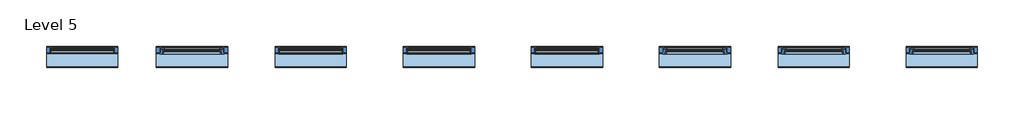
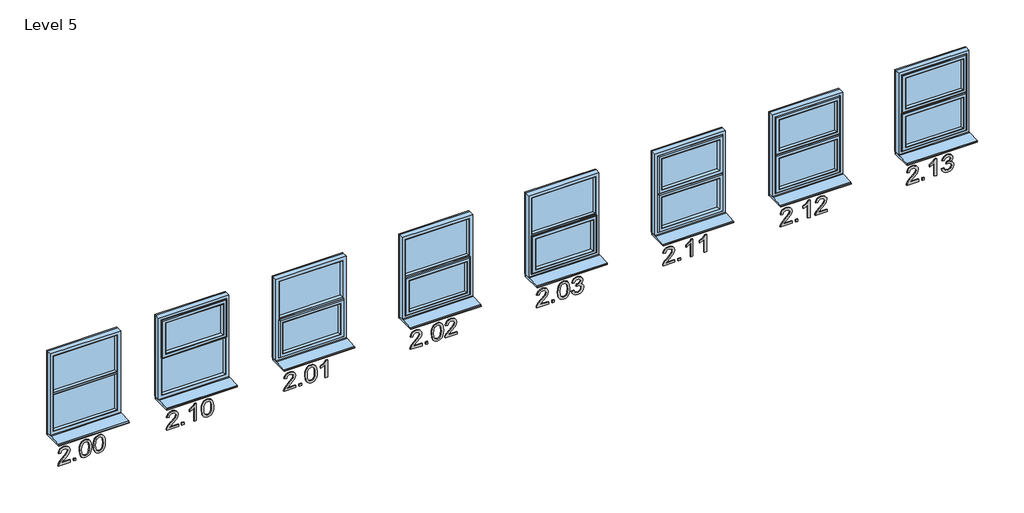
# One storey: 8 proxies, 8 windows.
"""IFC4 building model written with IfcOpenShell, lengths in millimetres."""

from ifc_helpers import new_model, si_unit, frame, origin, place, context, project, spatial, polyline, outline, extrude, transform, mapped, element, save
from components import standard_b5395198, standard_c10d99b5, standard_74cfcb48, standard_0e25eb84

model = new_model("IFC4")

# Units and contexts
model_context = context("Model", 3, world=origin())
ifc_project = project(units=[si_unit("LENGTHUNIT", "METRE", prefix="MILLI")], contexts=[model_context])

# Site, building, storey
site = spatial("IfcSite", under=ifc_project)
building = spatial("IfcBuilding", under=site)
storey = spatial("IfcBuildingStorey", under=building, Name="Level 5", Elevation=12000.0)

# Proxies
placement = place(None, origin())
element("IfcBuildingElementProxy", 1, Name="200mm Arial", ObjectType="200mm Arial", at=placement, inside=storey, context=model_context, shape_type="SweptSolid", body=[
    extrude(outline(polyline([(12310.934856, -163073.2452174), (12310.934856, -163171.8866431), (12323.712624, -163160.5558776), (12347.8702083, -163131.6648783), (12382.2794376, -163095.6860191), (12406.9030058, -163080.848112), (12430.7172337, -163076.3844771), (12452.6184751, -163080.5231496), (12470.6446929, -163092.9391669), (12482.7112223, -163112.4553067), (12486.7333988, -163137.8943467), (12483.1158925, -163163.1494457), (12472.2633736, -163182.7023737), (12454.5191987, -163195.8664178), (12430.2267243, -163201.9548648), (12427.0874646, -163176.8407873), (12441.5207016, -163174.1245919), (12452.4467968, -163166.2703113), (12459.3261901, -163154.0995486), (12461.6193212, -163138.433907), (12459.2710078, -163123.5162921), (12452.2260676, -163111.7256741), (12441.7720876, -163104.0553345), (12429.1966547, -163101.4985546), (12415.168088, -163104.2086187), (12400.7471138, -163112.3388108), (12358.9066682, -163155.6998353), (12329.7949396, -163187.1414831), (12303.1357577, -163202.3963232), (12285.8207785, -163205.0941245), (12285.8207785, -163073.2452174), (12310.934856, -163073.2452174)])), frame((0.0, 24202.6264647, 0.0), z_axis=(0.0, 1.0, 0.0), x_axis=(0.0, 0.0, 1.0)), (0.0, 0.0, 1.0), 10.0),
    extrude(outline(polyline([(-163010.4600236, 24202.6264647), (-163035.5741011, 24202.6264647), (-163035.5741011, 24212.6264647), (-163010.4600236, 24212.6264647), (-163010.4600236, 24202.6264647)])), frame((0.0, 0.0, 12285.8207785), z_axis=(0.0, 0.0, 1.0), x_axis=(1.0, 0.0, 0.0)), (0.0, 0.0, 1.0), 25.1140775),
    extrude(outline(polyline([(12384.6584079, -162969.6496476), (12335.7914162, -162964.6464524), (12316.9405296, -162958.3924585), (12301.8113825, -162949.636867), (12287.4639847, -162929.8202902), (12282.6815188, -162903.725194), (12285.4345024, -162883.4242393), (12293.6934532, -162866.96152), (12307.5503417, -162854.2266716), (12327.0971383, -162845.1093295), (12352.6833311, -162839.6278877), (12384.6584079, -162837.8007405), (12431.8699306, -162842.3624772), (12461.5947958, -162854.1347011), (12472.3553441, -162862.8044534), (12480.2586757, -162874.3927363), (12485.114718, -162888.2496248), (12486.7333988, -162903.725194), (12483.9988093, -162923.9157842), (12475.7950408, -162940.3417153), (12461.9933346, -162953.0949578), (12442.464932, -162962.2674822), (12416.8174256, -162967.8041062), (12384.6584079, -162969.6496476)]), holes=[polyline([(12384.7074588, -162944.53557), (12423.7029503, -162941.4944122), (12448.1793657, -162932.3709387), (12458.2593324, -162919.7403236), (12461.6193212, -162904.0194996), (12457.8056112, -162887.4157589), (12446.3644812, -162874.2946344), (12423.3228055, -162865.7597721), (12384.7074588, -162862.914818), (12345.2643775, -162865.857874), (12322.3882488, -162874.6870419), (12311.4437594, -162887.8326918), (12307.7955963, -162903.725194), (12311.4314967, -162919.6176962), (12322.3391979, -162932.7633462), (12345.2030639, -162941.5925141), (12384.7074588, -162944.53557)])]), frame((0.0, 24202.6264647, 0.0), z_axis=(0.0, 1.0, 0.0), x_axis=(0.0, 0.0, 1.0)), (0.0, 0.0, 1.0), 10.0),
    extrude(outline(polyline([(12384.6584079, -162815.8259227), (12335.7914162, -162810.8227275), (12316.9405296, -162804.5687336), (12301.8113825, -162795.8131421), (12287.4639847, -162775.9965653), (12282.6815188, -162749.9014691), (12285.4345024, -162729.6005144), (12293.6934532, -162713.1377951), (12307.5503417, -162700.4029467), (12327.0971383, -162691.2856046), (12352.6833311, -162685.8041628), (12384.6584079, -162683.9770156), (12431.8699306, -162688.5387523), (12461.5947958, -162700.3109762), (12472.3553441, -162708.9807285), (12480.2586757, -162720.5690114), (12485.114718, -162734.4258999), (12486.7333988, -162749.9014691), (12483.9988093, -162770.0920593), (12475.7950408, -162786.5179904), (12461.9933346, -162799.2712329), (12442.464932, -162808.4437573), (12416.8174256, -162813.9803813), (12384.6584079, -162815.8259227)]), holes=[polyline([(12384.7074588, -162790.7118451), (12423.7029503, -162787.6706873), (12448.1793657, -162778.5472138), (12458.2593324, -162765.9165986), (12461.6193212, -162750.1957747), (12457.8056112, -162733.592034), (12446.3644812, -162720.4709095), (12423.3228055, -162711.9360472), (12384.7074588, -162709.0910931), (12345.2643775, -162712.0341491), (12322.3882488, -162720.863317), (12311.4437594, -162734.0089669), (12307.7955963, -162749.9014691), (12311.4314967, -162765.7939713), (12322.3391979, -162778.9396213), (12345.2030639, -162787.7687892), (12384.7074588, -162790.7118451)])]), frame((0.0, 24202.6264647, 0.0), z_axis=(0.0, 1.0, 0.0), x_axis=(0.0, 0.0, 1.0)), (0.0, 0.0, 1.0), 10.0),
])
element("IfcBuildingElementProxy", 2, Name="200mm Arial", ObjectType="200mm Arial", at=placement, inside=storey, context=model_context, shape_type="SweptSolid", body=[
    extrude(outline(polyline([(12310.934856, -161873.2452174), (12310.934856, -161971.8866431), (12323.712624, -161960.5558776), (12347.8702083, -161931.6648783), (12382.2794376, -161895.6860191), (12406.9030058, -161880.848112), (12430.7172337, -161876.3844771), (12452.6184751, -161880.5231496), (12470.6446929, -161892.9391669), (12482.7112223, -161912.4553067), (12486.7333988, -161937.8943467), (12483.1158925, -161963.1494457), (12472.2633736, -161982.7023737), (12454.5191987, -161995.8664178), (12430.2267243, -162001.9548648), (12427.0874646, -161976.8407873), (12441.5207016, -161974.1245919), (12452.4467968, -161966.2703113), (12459.3261901, -161954.0995486), (12461.6193212, -161938.433907), (12459.2710078, -161923.5162921), (12452.2260676, -161911.7256741), (12441.7720876, -161904.0553345), (12429.1966547, -161901.4985546), (12415.168088, -161904.2086187), (12400.7471138, -161912.3388108), (12358.9066682, -161955.6998353), (12329.7949396, -161987.1414831), (12303.1357577, -162002.3963232), (12285.8207785, -162005.0941245), (12285.8207785, -161873.2452174), (12310.934856, -161873.2452174)])), frame((0.0, 24202.6264647, 0.0), z_axis=(0.0, 1.0, 0.0), x_axis=(0.0, 0.0, 1.0)), (0.0, 0.0, 1.0), 10.0),
    extrude(outline(polyline([(-161810.4600236, 24202.6264647), (-161835.5741011, 24202.6264647), (-161835.5741011, 24212.6264647), (-161810.4600236, 24212.6264647), (-161810.4600236, 24202.6264647)])), frame((0.0, 0.0, 12285.8207785), z_axis=(0.0, 0.0, 1.0), x_axis=(1.0, 0.0, 0.0)), (0.0, 0.0, 1.0), 25.1140775),
    extrude(outline(polyline([(12285.8207785, -161675.4718568), (12486.7333988, -161675.4718568), (12486.7333988, -161691.6586646), (12473.5754861, -161700.530752), (12460.0006405, -161714.0013644), (12436.5052437, -161750.8140894), (12412.7645923, -161750.8140894), (12425.4442584, -161724.3756367), (12442.3913556, -161700.5859343), (12285.8207785, -161700.5859343), (12285.8207785, -161675.4718568)])), frame((0.0, 24202.6264647, 0.0), z_axis=(0.0, 1.0, 0.0), x_axis=(0.0, 0.0, 1.0)), (0.0, 0.0, 1.0), 10.0),
    extrude(outline(polyline([(12384.6584079, -161615.8259227), (12335.7914162, -161610.8227275), (12316.9405296, -161604.5687336), (12301.8113825, -161595.8131421), (12287.4639847, -161575.9965653), (12282.6815188, -161549.9014691), (12285.4345024, -161529.6005144), (12293.6934532, -161513.1377951), (12307.5503417, -161500.4029467), (12327.0971383, -161491.2856046), (12352.6833311, -161485.8041628), (12384.6584079, -161483.9770156), (12431.8699306, -161488.5387523), (12461.5947958, -161500.3109762), (12472.3553441, -161508.9807285), (12480.2586757, -161520.5690114), (12485.114718, -161534.4258999), (12486.7333988, -161549.9014691), (12483.9988093, -161570.0920593), (12475.7950408, -161586.5179904), (12461.9933346, -161599.2712329), (12442.464932, -161608.4437573), (12416.8174256, -161613.9803813), (12384.6584079, -161615.8259227)]), holes=[polyline([(12384.7074588, -161590.7118451), (12423.7029503, -161587.6706873), (12448.1793657, -161578.5472138), (12458.2593324, -161565.9165986), (12461.6193212, -161550.1957747), (12457.8056112, -161533.592034), (12446.3644812, -161520.4709095), (12423.3228055, -161511.9360472), (12384.7074588, -161509.0910931), (12345.2643775, -161512.0341491), (12322.3882488, -161520.863317), (12311.4437594, -161534.0089669), (12307.7955963, -161549.9014691), (12311.4314967, -161565.7939713), (12322.3391979, -161578.9396213), (12345.2030639, -161587.7687892), (12384.7074588, -161590.7118451)])]), frame((0.0, 24202.6264647, 0.0), z_axis=(0.0, 1.0, 0.0), x_axis=(0.0, 0.0, 1.0)), (0.0, 0.0, 1.0), 10.0),
])
element("IfcBuildingElementProxy", 3, Name="200mm Arial", ObjectType="200mm Arial", at=placement, inside=storey, context=model_context, shape_type="SweptSolid", body=[
    extrude(outline(polyline([(12310.934856, -160573.2452174), (12310.934856, -160671.8866431), (12323.712624, -160660.5558776), (12347.8702083, -160631.6648783), (12382.2794376, -160595.6860191), (12406.9030058, -160580.848112), (12430.7172337, -160576.3844771), (12452.6184751, -160580.5231496), (12470.6446929, -160592.9391669), (12482.7112223, -160612.4553067), (12486.7333988, -160637.8943467), (12483.1158925, -160663.1494457), (12472.2633736, -160682.7023737), (12454.5191987, -160695.8664178), (12430.2267243, -160701.9548648), (12427.0874646, -160676.8407873), (12441.5207016, -160674.1245919), (12452.4467968, -160666.2703113), (12459.3261901, -160654.0995486), (12461.6193212, -160638.433907), (12459.2710078, -160623.5162921), (12452.2260676, -160611.7256741), (12441.7720876, -160604.0553345), (12429.1966547, -160601.4985546), (12415.168088, -160604.2086187), (12400.7471138, -160612.3388108), (12358.9066682, -160655.6998353), (12329.7949396, -160687.1414831), (12303.1357577, -160702.3963232), (12285.8207785, -160705.0941245), (12285.8207785, -160573.2452174), (12310.934856, -160573.2452174)])), frame((0.0, 24202.6264647, 0.0), z_axis=(0.0, 1.0, 0.0), x_axis=(0.0, 0.0, 1.0)), (0.0, 0.0, 1.0), 10.0),
    extrude(outline(polyline([(-160510.4600236, 24202.6264647), (-160535.5741011, 24202.6264647), (-160535.5741011, 24212.6264647), (-160510.4600236, 24212.6264647), (-160510.4600236, 24202.6264647)])), frame((0.0, 0.0, 12285.8207785), z_axis=(0.0, 0.0, 1.0), x_axis=(1.0, 0.0, 0.0)), (0.0, 0.0, 1.0), 25.1140775),
    extrude(outline(polyline([(12384.6584079, -160469.6496476), (12335.7914162, -160464.6464524), (12316.9405296, -160458.3924585), (12301.8113825, -160449.636867), (12287.4639847, -160429.8202902), (12282.6815188, -160403.725194), (12285.4345024, -160383.4242393), (12293.6934532, -160366.96152), (12307.5503417, -160354.2266716), (12327.0971383, -160345.1093295), (12352.6833311, -160339.6278877), (12384.6584079, -160337.8007405), (12431.8699306, -160342.3624772), (12461.5947958, -160354.1347011), (12472.3553441, -160362.8044534), (12480.2586757, -160374.3927363), (12485.114718, -160388.2496248), (12486.7333988, -160403.725194), (12483.9988093, -160423.9157842), (12475.7950408, -160440.3417153), (12461.9933346, -160453.0949578), (12442.464932, -160462.2674822), (12416.8174256, -160467.8041062), (12384.6584079, -160469.6496476)]), holes=[polyline([(12384.7074588, -160444.53557), (12423.7029503, -160441.4944122), (12448.1793657, -160432.3709387), (12458.2593324, -160419.7403236), (12461.6193212, -160404.0194996), (12457.8056112, -160387.4157589), (12446.3644812, -160374.2946344), (12423.3228055, -160365.7597721), (12384.7074588, -160362.914818), (12345.2643775, -160365.857874), (12322.3882488, -160374.6870419), (12311.4437594, -160387.8326918), (12307.7955963, -160403.725194), (12311.4314967, -160419.6176962), (12322.3391979, -160432.7633462), (12345.2030639, -160441.5925141), (12384.7074588, -160444.53557)])]), frame((0.0, 24202.6264647, 0.0), z_axis=(0.0, 1.0, 0.0), x_axis=(0.0, 0.0, 1.0)), (0.0, 0.0, 1.0), 10.0),
    extrude(outline(polyline([(12285.8207785, -160221.6481319), (12486.7333988, -160221.6481319), (12486.7333988, -160237.8349397), (12473.5754861, -160246.7070271), (12460.0006405, -160260.1776395), (12436.5052437, -160296.9903645), (12412.7645923, -160296.9903645), (12425.4442584, -160270.5519118), (12442.3913556, -160246.7622094), (12285.8207785, -160246.7622094), (12285.8207785, -160221.6481319)])), frame((0.0, 24202.6264647, 0.0), z_axis=(0.0, 1.0, 0.0), x_axis=(0.0, 0.0, 1.0)), (0.0, 0.0, 1.0), 10.0),
])
element("IfcBuildingElementProxy", 4, Name="200mm Arial", ObjectType="200mm Arial", at=placement, inside=storey, context=model_context, shape_type="SweptSolid", body=[
    extrude(outline(polyline([(12310.934856, -159173.2452174), (12310.934856, -159271.8866431), (12323.712624, -159260.5558776), (12347.8702083, -159231.6648783), (12382.2794376, -159195.6860191), (12406.9030058, -159180.848112), (12430.7172337, -159176.3844771), (12452.6184751, -159180.5231496), (12470.6446929, -159192.9391669), (12482.7112223, -159212.4553067), (12486.7333988, -159237.8943467), (12483.1158925, -159263.1494457), (12472.2633736, -159282.7023737), (12454.5191987, -159295.8664178), (12430.2267243, -159301.9548648), (12427.0874646, -159276.8407873), (12441.5207016, -159274.1245919), (12452.4467968, -159266.2703113), (12459.3261901, -159254.0995486), (12461.6193212, -159238.433907), (12459.2710078, -159223.5162921), (12452.2260676, -159211.7256741), (12441.7720876, -159204.0553345), (12429.1966547, -159201.4985546), (12415.168088, -159204.2086187), (12400.7471138, -159212.3388108), (12358.9066682, -159255.6998353), (12329.7949396, -159287.1414831), (12303.1357577, -159302.3963232), (12285.8207785, -159305.0941245), (12285.8207785, -159173.2452174), (12310.934856, -159173.2452174)])), frame((0.0, 24202.6264647, 0.0), z_axis=(0.0, 1.0, 0.0), x_axis=(0.0, 0.0, 1.0)), (0.0, 0.0, 1.0), 10.0),
    extrude(outline(polyline([(-159110.4600236, 24202.6264647), (-159135.5741011, 24202.6264647), (-159135.5741011, 24212.6264647), (-159110.4600236, 24212.6264647), (-159110.4600236, 24202.6264647)])), frame((0.0, 0.0, 12285.8207785), z_axis=(0.0, 0.0, 1.0), x_axis=(1.0, 0.0, 0.0)), (0.0, 0.0, 1.0), 25.1140775),
    extrude(outline(polyline([(12384.6584079, -159069.6496476), (12335.7914162, -159064.6464524), (12316.9405296, -159058.3924585), (12301.8113825, -159049.636867), (12287.4639847, -159029.8202902), (12282.6815188, -159003.725194), (12285.4345024, -158983.4242393), (12293.6934532, -158966.96152), (12307.5503417, -158954.2266716), (12327.0971383, -158945.1093295), (12352.6833311, -158939.6278877), (12384.6584079, -158937.8007405), (12431.8699306, -158942.3624772), (12461.5947958, -158954.1347011), (12472.3553441, -158962.8044534), (12480.2586757, -158974.3927363), (12485.114718, -158988.2496248), (12486.7333988, -159003.725194), (12483.9988093, -159023.9157842), (12475.7950408, -159040.3417153), (12461.9933346, -159053.0949578), (12442.464932, -159062.2674822), (12416.8174256, -159067.8041062), (12384.6584079, -159069.6496476)]), holes=[polyline([(12384.7074588, -159044.53557), (12423.7029503, -159041.4944122), (12448.1793657, -159032.3709387), (12458.2593324, -159019.7403236), (12461.6193212, -159004.0194996), (12457.8056112, -158987.4157589), (12446.3644812, -158974.2946344), (12423.3228055, -158965.7597721), (12384.7074588, -158962.914818), (12345.2643775, -158965.857874), (12322.3882488, -158974.6870419), (12311.4437594, -158987.8326918), (12307.7955963, -159003.725194), (12311.4314967, -159019.6176962), (12322.3391979, -159032.7633462), (12345.2030639, -159041.5925141), (12384.7074588, -159044.53557)])]), frame((0.0, 24202.6264647, 0.0), z_axis=(0.0, 1.0, 0.0), x_axis=(0.0, 0.0, 1.0)), (0.0, 0.0, 1.0), 10.0),
    extrude(outline(polyline([(12310.934856, -158787.1162753), (12310.934856, -158885.7577009), (12323.712624, -158874.4269355), (12347.8702083, -158845.5359361), (12382.2794376, -158809.557077), (12406.9030058, -158794.7191698), (12430.7172337, -158790.255535), (12452.6184751, -158794.3942074), (12470.6446929, -158806.8102248), (12482.7112223, -158826.3263646), (12486.7333988, -158851.7654046), (12483.1158925, -158877.0205035), (12472.2633736, -158896.5734316), (12454.5191987, -158909.7374756), (12430.2267243, -158915.8259227), (12427.0874646, -158890.7118451), (12441.5207016, -158887.9956497), (12452.4467968, -158880.1413691), (12459.3261901, -158867.9706065), (12461.6193212, -158852.3049648), (12459.2710078, -158837.3873499), (12452.2260676, -158825.596732), (12441.7720876, -158817.9263924), (12429.1966547, -158815.3696125), (12415.168088, -158818.0796765), (12400.7471138, -158826.2098686), (12358.9066682, -158869.5708931), (12329.7949396, -158901.012541), (12303.1357577, -158916.2673811), (12285.8207785, -158918.9651824), (12285.8207785, -158787.1162753), (12310.934856, -158787.1162753)])), frame((0.0, 24202.6264647, 0.0), z_axis=(0.0, 1.0, 0.0), x_axis=(0.0, 0.0, 1.0)), (0.0, 0.0, 1.0), 10.0),
])
element("IfcBuildingElementProxy", 5, Name="200mm Arial", ObjectType="200mm Arial", at=placement, inside=storey, context=model_context, shape_type="SweptSolid", body=[
    extrude(outline(polyline([(12310.934856, -157773.2452174), (12310.934856, -157871.8866431), (12323.712624, -157860.5558776), (12347.8702083, -157831.6648783), (12382.2794376, -157795.6860191), (12406.9030058, -157780.848112), (12430.7172337, -157776.3844771), (12452.6184751, -157780.5231496), (12470.6446929, -157792.9391669), (12482.7112223, -157812.4553067), (12486.7333988, -157837.8943467), (12483.1158925, -157863.1494457), (12472.2633736, -157882.7023737), (12454.5191987, -157895.8664178), (12430.2267243, -157901.9548648), (12427.0874646, -157876.8407873), (12441.5207016, -157874.1245919), (12452.4467968, -157866.2703113), (12459.3261901, -157854.0995486), (12461.6193212, -157838.433907), (12459.2710078, -157823.5162921), (12452.2260676, -157811.7256741), (12441.7720876, -157804.0553345), (12429.1966547, -157801.4985546), (12415.168088, -157804.2086187), (12400.7471138, -157812.3388108), (12358.9066682, -157855.6998353), (12329.7949396, -157887.1414831), (12303.1357577, -157902.3963232), (12285.8207785, -157905.0941245), (12285.8207785, -157773.2452174), (12310.934856, -157773.2452174)])), frame((0.0, 24202.6264647, 0.0), z_axis=(0.0, 1.0, 0.0), x_axis=(0.0, 0.0, 1.0)), (0.0, 0.0, 1.0), 10.0),
    extrude(outline(polyline([(-157710.4600236, 24202.6264647), (-157735.5741011, 24202.6264647), (-157735.5741011, 24212.6264647), (-157710.4600236, 24212.6264647), (-157710.4600236, 24202.6264647)])), frame((0.0, 0.0, 12285.8207785), z_axis=(0.0, 0.0, 1.0), x_axis=(1.0, 0.0, 0.0)), (0.0, 0.0, 1.0), 25.1140775),
    extrude(outline(polyline([(12384.6584079, -157669.6496476), (12335.7914162, -157664.6464524), (12316.9405296, -157658.3924585), (12301.8113825, -157649.636867), (12287.4639847, -157629.8202902), (12282.6815188, -157603.725194), (12285.4345024, -157583.4242393), (12293.6934532, -157566.96152), (12307.5503417, -157554.2266716), (12327.0971383, -157545.1093295), (12352.6833311, -157539.6278877), (12384.6584079, -157537.8007405), (12431.8699306, -157542.3624772), (12461.5947958, -157554.1347011), (12472.3553441, -157562.8044534), (12480.2586757, -157574.3927363), (12485.114718, -157588.2496248), (12486.7333988, -157603.725194), (12483.9988093, -157623.9157842), (12475.7950408, -157640.3417153), (12461.9933346, -157653.0949578), (12442.464932, -157662.2674822), (12416.8174256, -157667.8041062), (12384.6584079, -157669.6496476)]), holes=[polyline([(12384.7074588, -157644.53557), (12423.7029503, -157641.4944122), (12448.1793657, -157632.3709387), (12458.2593324, -157619.7403236), (12461.6193212, -157604.0194996), (12457.8056112, -157587.4157589), (12446.3644812, -157574.2946344), (12423.3228055, -157565.7597721), (12384.7074588, -157562.914818), (12345.2643775, -157565.857874), (12322.3882488, -157574.6870419), (12311.4437594, -157587.8326918), (12307.7955963, -157603.725194), (12311.4314967, -157619.6176962), (12322.3391979, -157632.7633462), (12345.2030639, -157641.5925141), (12384.7074588, -157644.53557)])]), frame((0.0, 24202.6264647, 0.0), z_axis=(0.0, 1.0, 0.0), x_axis=(0.0, 0.0, 1.0)), (0.0, 0.0, 1.0), 10.0),
    extrude(outline(polyline([(12339.1881933, -157515.8259227), (12316.4898741, -157509.6087169), (12298.4268682, -157495.8621931), (12286.6178561, -157476.0946672), (12282.6815188, -157451.8144555), (12287.2923065, -157424.9713326), (12301.1246695, -157403.2049812), (12321.5789084, -157388.784007), (12346.0553238, -157383.9770156), (12364.0324907, -157386.3805113), (12378.723245, -157393.5909984), (12389.5389757, -157405.2405949), (12395.8910714, -157420.9614188), (12403.1383467, -157408.9929913), (12412.5193376, -157400.3600271), (12423.531272, -157395.1361028), (12435.6713779, -157393.3947947), (12448.7005318, -157395.2280733), (12461.0061846, -157400.7279091), (12471.6870252, -157409.6919671), (12479.8417427, -157421.917912), (12485.0104848, -157436.418594), (12486.7333988, -157452.206863), (12483.2385198, -157474.1326299), (12472.753883, -157492.1343222), (12455.9171503, -157505.2922349), (12433.365984, -157512.686663), (12430.2267243, -157487.5725854), (12443.9609855, -157483.1212133), (12453.771172, -157475.2608013), (12459.6572839, -157464.4941216), (12461.6193212, -157451.3239462), (12459.675678, -157438.1782962), (12453.8447484, -157427.6813966), (12445.0462374, -157420.8020033), (12434.1998499, -157418.5088722), (12421.1768272, -157421.6726574), (12412.0288283, -157431.1640128), (12406.620963, -157444.6162311), (12404.8183412, -157459.6626047), (12405.1126468, -157463.6847812), (12379.9985693, -157466.4806844), (12382.7454215, -157448.8713995), (12380.1763789, -157433.0769992), (12372.4692511, -157420.3237567), (12360.8380487, -157411.899259), (12346.4967822, -157409.0910931), (12331.389095, -157411.9237845), (12318.9301581, -157420.4218586), (12310.5792368, -157433.7146613), (12307.7955963, -157450.9315387), (12309.8189473, -157465.603899), (12315.8890002, -157476.8549566), (12326.5453154, -157485.089382), (12342.3274529, -157490.7118451), (12339.1881933, -157515.8259227)])), frame((0.0, 24202.6264647, 0.0), z_axis=(0.0, 1.0, 0.0), x_axis=(0.0, 0.0, 1.0)), (0.0, 0.0, 1.0), 10.0),
])
element("IfcBuildingElementProxy", 6, Name="200mm Arial", ObjectType="200mm Arial", at=placement, inside=storey, context=model_context, shape_type="SweptSolid", body=[
    extrude(outline(polyline([(12310.934856, -156373.2452174), (12310.934856, -156471.8866431), (12323.712624, -156460.5558776), (12347.8702083, -156431.6648783), (12382.2794376, -156395.6860191), (12406.9030058, -156380.848112), (12430.7172337, -156376.3844771), (12452.6184751, -156380.5231496), (12470.6446929, -156392.9391669), (12482.7112223, -156412.4553067), (12486.7333988, -156437.8943467), (12483.1158925, -156463.1494457), (12472.2633736, -156482.7023737), (12454.5191987, -156495.8664178), (12430.2267243, -156501.9548648), (12427.0874646, -156476.8407873), (12441.5207016, -156474.1245919), (12452.4467968, -156466.2703113), (12459.3261901, -156454.0995486), (12461.6193212, -156438.433907), (12459.2710078, -156423.5162921), (12452.2260676, -156411.7256741), (12441.7720876, -156404.0553345), (12429.1966547, -156401.4985546), (12415.168088, -156404.2086187), (12400.7471138, -156412.3388108), (12358.9066682, -156455.6998353), (12329.7949396, -156487.1414831), (12303.1357577, -156502.3963232), (12285.8207785, -156505.0941245), (12285.8207785, -156373.2452174), (12310.934856, -156373.2452174)])), frame((0.0, 24202.6264647, 0.0), z_axis=(0.0, 1.0, 0.0), x_axis=(0.0, 0.0, 1.0)), (0.0, 0.0, 1.0), 10.0),
    extrude(outline(polyline([(-156310.4600236, 24202.6264647), (-156335.5741011, 24202.6264647), (-156335.5741011, 24212.6264647), (-156310.4600236, 24212.6264647), (-156310.4600236, 24202.6264647)])), frame((0.0, 0.0, 12285.8207785), z_axis=(0.0, 0.0, 1.0), x_axis=(1.0, 0.0, 0.0)), (0.0, 0.0, 1.0), 25.1140775),
    extrude(outline(polyline([(12285.8207785, -156175.4718568), (12486.7333988, -156175.4718568), (12486.7333988, -156191.6586646), (12473.5754861, -156200.530752), (12460.0006405, -156214.0013644), (12436.5052437, -156250.8140894), (12412.7645923, -156250.8140894), (12425.4442584, -156224.3756367), (12442.3913556, -156200.5859343), (12285.8207785, -156200.5859343), (12285.8207785, -156175.4718568)])), frame((0.0, 24202.6264647, 0.0), z_axis=(0.0, 1.0, 0.0), x_axis=(0.0, 0.0, 1.0)), (0.0, 0.0, 1.0), 10.0),
    extrude(outline(polyline([(12285.8207785, -156021.6481319), (12486.7333988, -156021.6481319), (12486.7333988, -156037.8349397), (12473.5754861, -156046.7070271), (12460.0006405, -156060.1776395), (12436.5052437, -156096.9903645), (12412.7645923, -156096.9903645), (12425.4442584, -156070.5519118), (12442.3913556, -156046.7622094), (12285.8207785, -156046.7622094), (12285.8207785, -156021.6481319)])), frame((0.0, 24202.6264647, 0.0), z_axis=(0.0, 1.0, 0.0), x_axis=(0.0, 0.0, 1.0)), (0.0, 0.0, 1.0), 10.0),
])
element("IfcBuildingElementProxy", 7, Name="200mm Arial", ObjectType="200mm Arial", at=placement, inside=storey, context=model_context, shape_type="SweptSolid", body=[
    extrude(outline(polyline([(12310.934856, -155073.2452174), (12310.934856, -155171.8866431), (12323.712624, -155160.5558776), (12347.8702083, -155131.6648783), (12382.2794376, -155095.6860191), (12406.9030058, -155080.848112), (12430.7172337, -155076.3844771), (12452.6184751, -155080.5231496), (12470.6446929, -155092.9391669), (12482.7112223, -155112.4553067), (12486.7333988, -155137.8943467), (12483.1158925, -155163.1494457), (12472.2633736, -155182.7023737), (12454.5191987, -155195.8664178), (12430.2267243, -155201.9548648), (12427.0874646, -155176.8407873), (12441.5207016, -155174.1245919), (12452.4467968, -155166.2703113), (12459.3261901, -155154.0995486), (12461.6193212, -155138.433907), (12459.2710078, -155123.5162921), (12452.2260676, -155111.7256741), (12441.7720876, -155104.0553345), (12429.1966547, -155101.4985546), (12415.168088, -155104.2086187), (12400.7471138, -155112.3388108), (12358.9066682, -155155.6998353), (12329.7949396, -155187.1414831), (12303.1357577, -155202.3963232), (12285.8207785, -155205.0941245), (12285.8207785, -155073.2452174), (12310.934856, -155073.2452174)])), frame((0.0, 24202.6264647, 0.0), z_axis=(0.0, 1.0, 0.0), x_axis=(0.0, 0.0, 1.0)), (0.0, 0.0, 1.0), 10.0),
    extrude(outline(polyline([(-155010.4600236, 24202.6264647), (-155035.5741011, 24202.6264647), (-155035.5741011, 24212.6264647), (-155010.4600236, 24212.6264647), (-155010.4600236, 24202.6264647)])), frame((0.0, 0.0, 12285.8207785), z_axis=(0.0, 0.0, 1.0), x_axis=(1.0, 0.0, 0.0)), (0.0, 0.0, 1.0), 25.1140775),
    extrude(outline(polyline([(12285.8207785, -154875.4718568), (12486.7333988, -154875.4718568), (12486.7333988, -154891.6586646), (12473.5754861, -154900.530752), (12460.0006405, -154914.0013644), (12436.5052437, -154950.8140894), (12412.7645923, -154950.8140894), (12425.4442584, -154924.3756367), (12442.3913556, -154900.5859343), (12285.8207785, -154900.5859343), (12285.8207785, -154875.4718568)])), frame((0.0, 24202.6264647, 0.0), z_axis=(0.0, 1.0, 0.0), x_axis=(0.0, 0.0, 1.0)), (0.0, 0.0, 1.0), 10.0),
    extrude(outline(polyline([(12310.934856, -154687.1162753), (12310.934856, -154785.7577009), (12323.712624, -154774.4269355), (12347.8702083, -154745.5359361), (12382.2794376, -154709.557077), (12406.9030058, -154694.7191698), (12430.7172337, -154690.255535), (12452.6184751, -154694.3942074), (12470.6446929, -154706.8102248), (12482.7112223, -154726.3263646), (12486.7333988, -154751.7654046), (12483.1158925, -154777.0205035), (12472.2633736, -154796.5734316), (12454.5191987, -154809.7374756), (12430.2267243, -154815.8259227), (12427.0874646, -154790.7118451), (12441.5207016, -154787.9956497), (12452.4467968, -154780.1413691), (12459.3261901, -154767.9706065), (12461.6193212, -154752.3049648), (12459.2710078, -154737.3873499), (12452.2260676, -154725.596732), (12441.7720876, -154717.9263924), (12429.1966547, -154715.3696125), (12415.168088, -154718.0796765), (12400.7471138, -154726.2098686), (12358.9066682, -154769.5708931), (12329.7949396, -154801.012541), (12303.1357577, -154816.2673811), (12285.8207785, -154818.9651824), (12285.8207785, -154687.1162753), (12310.934856, -154687.1162753)])), frame((0.0, 24202.6264647, 0.0), z_axis=(0.0, 1.0, 0.0), x_axis=(0.0, 0.0, 1.0)), (0.0, 0.0, 1.0), 10.0),
])
element("IfcBuildingElementProxy", 8, Name="200mm Arial", ObjectType="200mm Arial", at=placement, inside=storey, context=model_context, shape_type="SweptSolid", body=[
    extrude(outline(polyline([(12310.934856, -153673.2452174), (12310.934856, -153771.8866431), (12323.712624, -153760.5558776), (12347.8702083, -153731.6648783), (12382.2794376, -153695.6860191), (12406.9030058, -153680.848112), (12430.7172337, -153676.3844771), (12452.6184751, -153680.5231496), (12470.6446929, -153692.9391669), (12482.7112223, -153712.4553067), (12486.7333988, -153737.8943467), (12483.1158925, -153763.1494457), (12472.2633736, -153782.7023737), (12454.5191987, -153795.8664178), (12430.2267243, -153801.9548648), (12427.0874646, -153776.8407873), (12441.5207016, -153774.1245919), (12452.4467968, -153766.2703113), (12459.3261901, -153754.0995486), (12461.6193212, -153738.433907), (12459.2710078, -153723.5162921), (12452.2260676, -153711.7256741), (12441.7720876, -153704.0553345), (12429.1966547, -153701.4985546), (12415.168088, -153704.2086187), (12400.7471138, -153712.3388108), (12358.9066682, -153755.6998353), (12329.7949396, -153787.1414831), (12303.1357577, -153802.3963232), (12285.8207785, -153805.0941245), (12285.8207785, -153673.2452174), (12310.934856, -153673.2452174)])), frame((0.0, 24202.6264647, 0.0), z_axis=(0.0, 1.0, 0.0), x_axis=(0.0, 0.0, 1.0)), (0.0, 0.0, 1.0), 10.0),
    extrude(outline(polyline([(-153610.4600236, 24202.6264647), (-153635.5741011, 24202.6264647), (-153635.5741011, 24212.6264647), (-153610.4600236, 24212.6264647), (-153610.4600236, 24202.6264647)])), frame((0.0, 0.0, 12285.8207785), z_axis=(0.0, 0.0, 1.0), x_axis=(1.0, 0.0, 0.0)), (0.0, 0.0, 1.0), 25.1140775),
    extrude(outline(polyline([(12285.8207785, -153475.4718568), (12486.7333988, -153475.4718568), (12486.7333988, -153491.6586646), (12473.5754861, -153500.530752), (12460.0006405, -153514.0013644), (12436.5052437, -153550.8140894), (12412.7645923, -153550.8140894), (12425.4442584, -153524.3756367), (12442.3913556, -153500.5859343), (12285.8207785, -153500.5859343), (12285.8207785, -153475.4718568)])), frame((0.0, 24202.6264647, 0.0), z_axis=(0.0, 1.0, 0.0), x_axis=(0.0, 0.0, 1.0)), (0.0, 0.0, 1.0), 10.0),
    extrude(outline(polyline([(12339.1881933, -153415.8259227), (12316.4898741, -153409.6087169), (12298.4268682, -153395.8621931), (12286.6178561, -153376.0946672), (12282.6815188, -153351.8144555), (12287.2923065, -153324.9713326), (12301.1246695, -153303.2049812), (12321.5789084, -153288.784007), (12346.0553238, -153283.9770156), (12364.0324907, -153286.3805113), (12378.723245, -153293.5909984), (12389.5389757, -153305.2405949), (12395.8910714, -153320.9614188), (12403.1383467, -153308.9929913), (12412.5193376, -153300.3600271), (12423.531272, -153295.1361028), (12435.6713779, -153293.3947947), (12448.7005318, -153295.2280733), (12461.0061846, -153300.7279091), (12471.6870252, -153309.6919671), (12479.8417427, -153321.917912), (12485.0104848, -153336.418594), (12486.7333988, -153352.206863), (12483.2385198, -153374.1326299), (12472.753883, -153392.1343222), (12455.9171503, -153405.2922349), (12433.365984, -153412.686663), (12430.2267243, -153387.5725854), (12443.9609855, -153383.1212133), (12453.771172, -153375.2608013), (12459.6572839, -153364.4941216), (12461.6193212, -153351.3239462), (12459.675678, -153338.1782962), (12453.8447484, -153327.6813966), (12445.0462374, -153320.8020033), (12434.1998499, -153318.5088722), (12421.1768272, -153321.6726574), (12412.0288283, -153331.1640128), (12406.620963, -153344.6162311), (12404.8183412, -153359.6626047), (12405.1126468, -153363.6847812), (12379.9985693, -153366.4806844), (12382.7454215, -153348.8713995), (12380.1763789, -153333.0769992), (12372.4692511, -153320.3237567), (12360.8380487, -153311.899259), (12346.4967822, -153309.0910931), (12331.389095, -153311.9237845), (12318.9301581, -153320.4218586), (12310.5792368, -153333.7146613), (12307.7955963, -153350.9315387), (12309.8189473, -153365.603899), (12315.8890002, -153376.8549566), (12326.5453154, -153385.089382), (12342.3274529, -153390.7118451), (12339.1881933, -153415.8259227)])), frame((0.0, 24202.6264647, 0.0), z_axis=(0.0, 1.0, 0.0), x_axis=(0.0, 0.0, 1.0)), (0.0, 0.0, 1.0), 10.0),
])

# Windows
standard_shape = standard_b5395198(model_context)
element("IfcWindow", 9, ObjectType="SMARTS_Alitherm600 : Standard", at=placement, inside=storey, context=model_context, shape_type="MappedRepresentation", body=[
    mapped(standard_shape, transform((-157576.7668676, 24355.9063079, 12000.0), x_axis=(-1.0, 0.0, 0.0), y_axis=(0.0, -1.0, 0.0), z_axis=(0.0, 0.0, 1.0))),
])
standard_2_shape = standard_c10d99b5(model_context)
element("IfcWindow", 10, ObjectType="SMARTS_Alitherm600 : Standard", at=placement, inside=storey, context=model_context, shape_type="MappedRepresentation", body=[
    mapped(standard_2_shape, transform((-156176.7668676, 24355.9063079, 12000.0), x_axis=(-1.0, 0.0, 0.0), y_axis=(0.0, -1.0, 0.0), z_axis=(0.0, 0.0, 1.0))),
])
element("IfcWindow", 11, ObjectType="SMARTS_Alitherm600 : Standard", at=placement, inside=storey, context=model_context, shape_type="MappedRepresentation", body=[
    mapped(standard_2_shape, transform((-154876.7668676, 24355.9063079, 12000.0), x_axis=(-1.0, 0.0, 0.0), y_axis=(0.0, -1.0, 0.0), z_axis=(0.0, 0.0, 1.0))),
])
element("IfcWindow", 12, ObjectType="SMARTS_Alitherm600 : Standard", at=placement, inside=storey, context=model_context, shape_type="MappedRepresentation", body=[
    mapped(standard_2_shape, transform((-153476.7668676, 24355.9063079, 12000.0), x_axis=(-1.0, 0.0, 0.0), y_axis=(0.0, -1.0, 0.0), z_axis=(0.0, 0.0, 1.0))),
])
standard_3_shape = standard_74cfcb48(model_context)
element("IfcWindow", 13, ObjectType="SMARTS_Alitherm600 : Standard", at=placement, inside=storey, context=model_context, shape_type="MappedRepresentation", body=[
    mapped(standard_3_shape, transform((-162876.7668676, 24355.9063079, 12000.0), x_axis=(-1.0, 0.0, 0.0), y_axis=(0.0, -1.0, 0.0), z_axis=(0.0, 0.0, 1.0))),
])
standard_4_shape = standard_0e25eb84(model_context)
element("IfcWindow", 14, ObjectType="SMARTS_Alitherm600 : Standard", at=placement, inside=storey, context=model_context, shape_type="MappedRepresentation", body=[
    mapped(standard_4_shape, transform((-161676.7668676, 24355.9063079, 12000.0), x_axis=(-1.0, 0.0, 0.0), y_axis=(0.0, -1.0, 0.0), z_axis=(0.0, 0.0, 1.0))),
])
element("IfcWindow", 15, ObjectType="SMARTS_Alitherm600 : Standard", at=placement, inside=storey, context=model_context, shape_type="MappedRepresentation", body=[
    mapped(standard_shape, transform((-160376.7668676, 24355.9063079, 12000.0), x_axis=(-1.0, 0.0, 0.0), y_axis=(0.0, -1.0, 0.0), z_axis=(0.0, 0.0, 1.0))),
])
element("IfcWindow", 16, ObjectType="SMARTS_Alitherm600 : Standard", at=placement, inside=storey, context=model_context, shape_type="MappedRepresentation", body=[
    mapped(standard_shape, transform((-158976.7668676, 24355.9063079, 12000.0), x_axis=(-1.0, 0.0, 0.0), y_axis=(0.0, -1.0, 0.0), z_axis=(0.0, 0.0, 1.0))),
])

save(model, "model.ifc")
